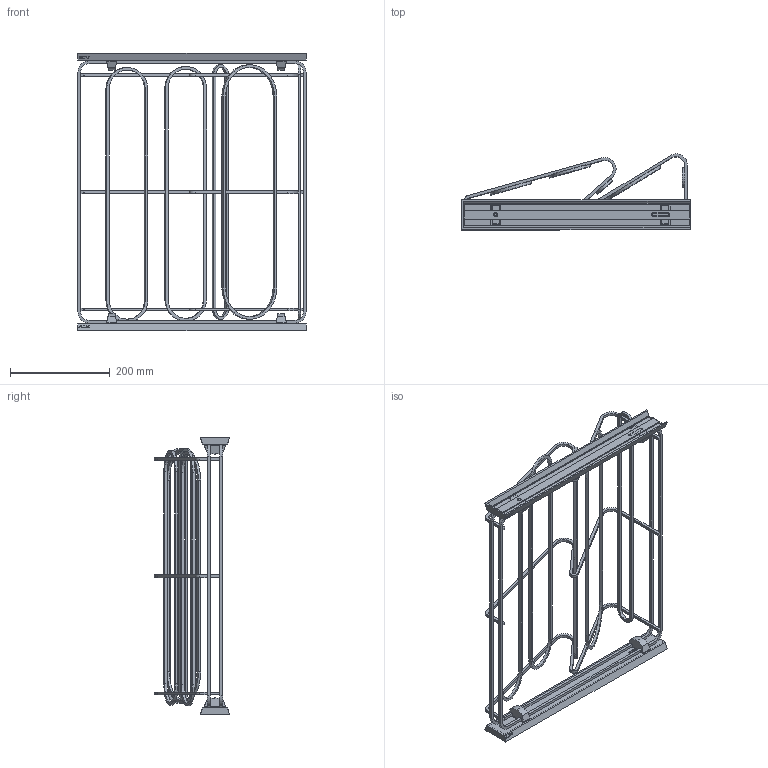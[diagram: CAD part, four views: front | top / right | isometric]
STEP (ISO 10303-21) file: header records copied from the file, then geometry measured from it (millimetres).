
FILE_DESCRIPTION(/* description */ (''),/* implementation_level */ '2;1');
FILE_NAME(/* name */ 'D:\$Workingspace\Designs\Meblowka\uproszczenia\garderoba smart\W-WOBU…-without slides.stp',/* time_stamp */ '2019-01-02T08:49:04+01:00',/* author */ ('tomaszw'),/* organization */ (''),/* preprocessor_version */ 'ST-DEVELOPER v17',/* originating_system */ 'Autodesk Inventor 2019',/* authorisation */ '');
FILE_SCHEMA (('AUTOMOTIVE_DESIGN { 1 0 10303 214 3 1 1 }'));
Length unit declared in the file: millimetre
Products named in the file (10): złożenie z koszem 11_2017; GTV_D_02_01; drut nośny buciarki; wzmocnienie buciarki duze; drut dół; wzmocnienie buciarki duze_1; wzmocnienie buciarki duze_2; PPD_2; MD_1_02; DD_3_01
Assembly tree (21 placements, depth 3):
  złożenie z koszem 11_2017
    PPD_2  x2
    GTV_D_02_01
      drut nośny buciarki  x3
      wzmocnienie buciarki duze_2  x2
      wzmocnienie buciarki duze
      wzmocnienie buciarki duze_1  x2
      drut dół  x2
    DD_3_01  x4
    MD_1_02  x4
Bounding box: 458.03 x 151.77 x 556.8 mm (x, y, z)
Volume: 574096.3 mm3; surface area: 464731.6 mm2
Topology: 20 solids, 20 shells, 1084 faces, 2932 edges, 1960 vertices
Faces by surface type: plane 828, bspline 172, cylinder 80, cone 4
Full cylindrical faces by diameter (mm): 4.3 x6, 8.3 x2
Entity records: 11873 total; most frequent: CARTESIAN_POINT 2717, ORIENTED_EDGE 1914, DIRECTION 1611, EDGE_CURVE 957, LINE 783, VECTOR 783, VERTEX_POINT 636, AXIS2_PLACEMENT_3D 414
